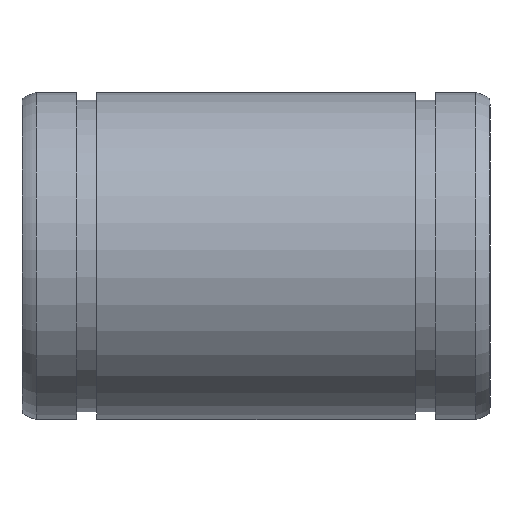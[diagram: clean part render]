
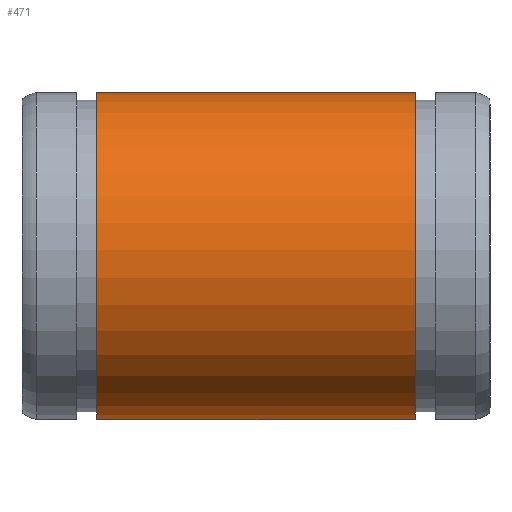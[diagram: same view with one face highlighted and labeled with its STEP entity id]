
A CAD part, front view. The second image highlights one B-rep face of the part: STEP entity #471.
In plain terms, the highlighted cylindrical face has radius 10.5 mm (diameter 21 mm), a partial arc.
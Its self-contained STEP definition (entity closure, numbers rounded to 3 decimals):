
#90=CARTESIAN_POINT('',(4.8,0.75,-10.473));
#91=VERTEX_POINT('',#90);
#98=CARTESIAN_POINT('',(25.2,0.75,-10.473));
#99=VERTEX_POINT('',#98);
#100=CARTESIAN_POINT('',(25.2,0.75,-10.473));
#101=DIRECTION('',(-1.0,0.0,0.0));
#102=VECTOR('',#101,20.4);
#103=LINE('',#100,#102);
#104=EDGE_CURVE('',#99,#91,#103,.T.);
#327=CARTESIAN_POINT('',(25.2,-0.75,-10.473));
#328=VERTEX_POINT('',#327);
#335=CARTESIAN_POINT('',(4.8,-0.75,-10.473));
#336=VERTEX_POINT('',#335);
#337=CARTESIAN_POINT('',(4.8,-0.75,-10.473));
#338=DIRECTION('',(1.0,0.0,0.0));
#339=VECTOR('',#338,20.4);
#340=LINE('',#337,#339);
#341=EDGE_CURVE('',#336,#328,#340,.T.);
#442=CARTESIAN_POINT('',(4.8,0.0,0.));
#443=DIRECTION('',(-1.0,0.0,0.0));
#444=DIRECTION('',(0.0,0.0,1.0));
#445=AXIS2_PLACEMENT_3D('',#442,#443,#444);
#446=CIRCLE('',#445,10.5);
#447=EDGE_CURVE('',#336,#91,#446,.T.);
#454=CARTESIAN_POINT('',(15.,0.0,0.));
#455=DIRECTION('',(-1.0,0.0,0.0));
#456=DIRECTION('',(0.0,0.0,1.0));
#457=AXIS2_PLACEMENT_3D('',#454,#455,#456);
#458=CYLINDRICAL_SURFACE('',#457,10.5);
#459=ORIENTED_EDGE('',*,*,#341,.T.);
#460=CARTESIAN_POINT('',(25.2,0.0,0.));
#461=DIRECTION('',(-1.0,0.0,0.0));
#462=DIRECTION('',(0.0,0.0,1.0));
#463=AXIS2_PLACEMENT_3D('',#460,#461,#462);
#464=CIRCLE('',#463,10.5);
#465=EDGE_CURVE('',#328,#99,#464,.T.);
#466=ORIENTED_EDGE('',*,*,#465,.T.);
#467=ORIENTED_EDGE('',*,*,#104,.T.);
#468=ORIENTED_EDGE('',*,*,#447,.F.);
#469=EDGE_LOOP('',(#459,#466,#467,#468));
#470=FACE_OUTER_BOUND('',#469,.T.);
#471=ADVANCED_FACE('',(#470),#458,.T.);
